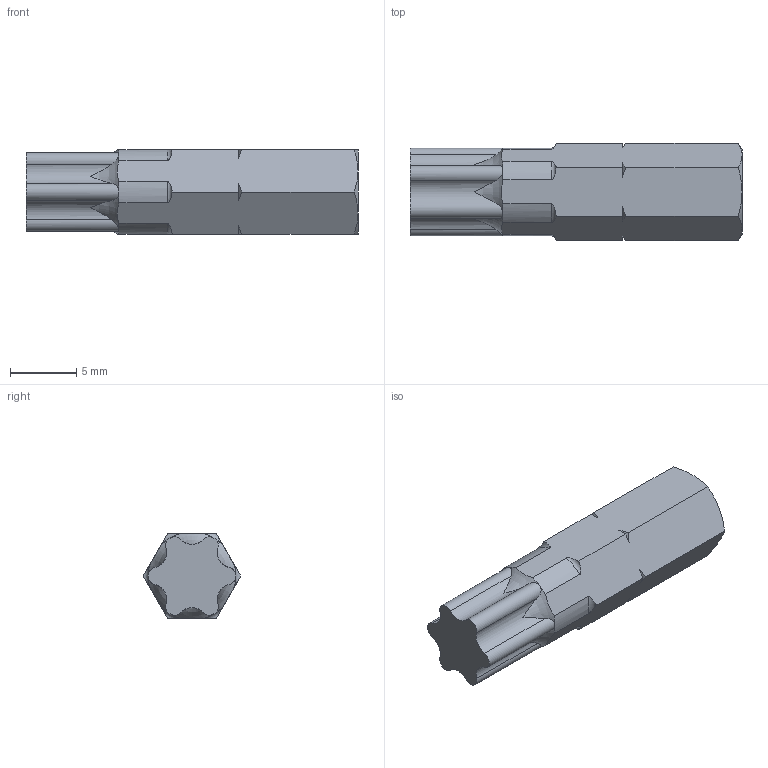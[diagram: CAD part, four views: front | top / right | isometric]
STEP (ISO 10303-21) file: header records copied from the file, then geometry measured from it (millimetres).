
FILE_DESCRIPTION((''),'2;1');
FILE_NAME('C:\Andys Backup Data\WEBSITE\DREAMWEAVER\MiniTec\Products\Tools_And_Processing_Services\CAD\STEP\26.1822 TORX BIT T40X25.stp','2014-04-03T08:25:26',('Admin'),(''),'Autodesk Inventor 2012','Autodesk Inventor 2012','');
FILE_SCHEMA(('AUTOMOTIVE_DESIGN { 1 0 10303 214 1 1 1 1 }'));
Length unit declared in the file: millimetre
Products named in the file (1): 26.1822 TORX BIT T40X25
Bounding box: 25 x 7.33 x 6.35 mm (x, y, z)
Volume: 801 mm3; surface area: 605.4 mm2
Topology: 1 solids, 1 shells, 56 faces, 156 edges, 102 vertices
Faces by surface type: cylinder 18, plane 14, torus 12, cone 12
Entity records: 2110 total; most frequent: CARTESIAN_POINT 761, ORIENTED_EDGE 312, DIRECTION 246, EDGE_CURVE 156, VERTEX_POINT 102, AXIS2_PLACEMENT_3D 99, EDGE_LOOP 56, FACE_OUTER_BOUND 56
